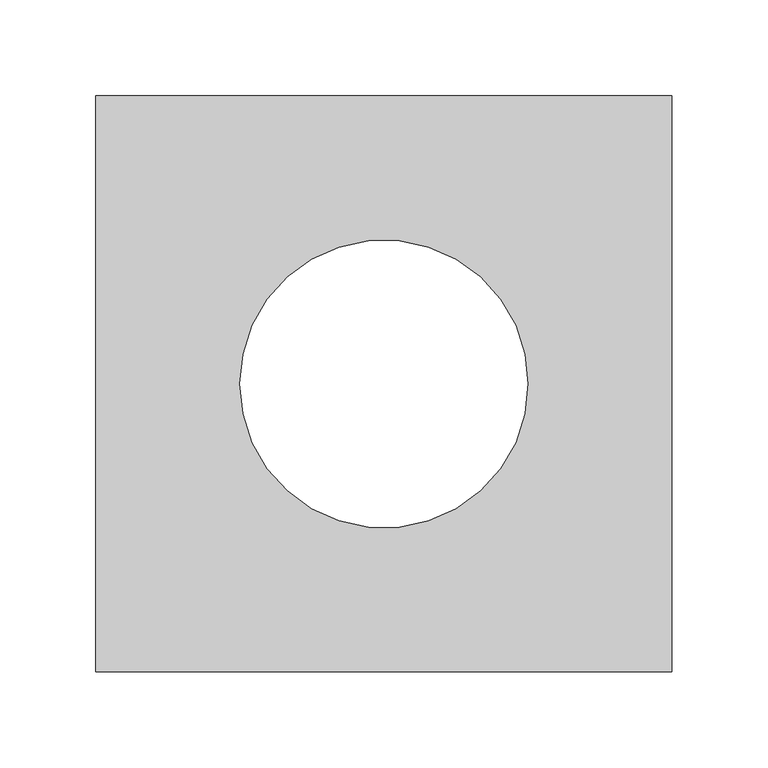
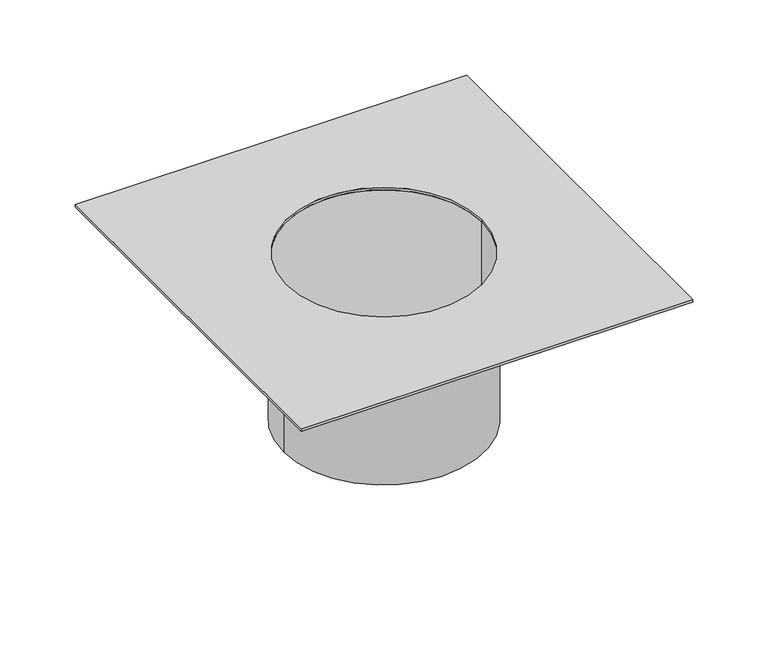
"""IFC4 building model written with IfcOpenShell, lengths in millimetres: proxy geometry, Viaboc Ralo 150mm : Viaboc Ralo 150mm."""

from ifc_helpers import new_model, si_unit, point, frame, origin, origin_with_axes, origin_2d, place, context, project, spatial, polyline, circle_curve, trimmed, segment, composite_curve, outline, extrude, source, transform, mapped, element, save


def entourage_1037a191(model_context):
    return source(origin(), model_context, "Body", "SweptSolid", [
        extrude(outline(composite_curve([segment(trimmed(circle_curve(origin_2d(), 77.0), [point((77.0, 0.0))], [point((-77.0, 0.0))], False, "CARTESIAN"), True, "CONTINUOUS"), segment(trimmed(circle_curve(origin_2d(), 77.0), [point((-77.0, 0.0))], [point((77.0, 0.0))], False, "CARTESIAN"), True, "CONTINUOUS")], self_intersect=False), holes=[composite_curve([segment(trimmed(circle_curve(origin_2d(), 75.0), [point((75.0, 0.0))], [point((-75.0, 0.0))], True, "CARTESIAN"), True, "CONTINUOUS"), segment(trimmed(circle_curve(origin_2d(), 75.0), [point((-75.0, 0.0))], [point((75.0, 0.0))], True, "CARTESIAN"), True, "CONTINUOUS")], self_intersect=False)]), frame((0.0, 0.0, -133.0), z_axis=(0.0, 0.0, 1.0), x_axis=(1.0, 0.0, 0.0)), (0.0, 0.0, 1.0), 133.0),
        extrude(outline(polyline([(150.0, 150.0), (150.0, -150.0), (-150.0, -150.0), (-150.0, 150.0), (150.0, 150.0)]), holes=[composite_curve([segment(trimmed(circle_curve(origin_2d(), 75.0), [point((-75.0, 0.0))], [point((75.0, 0.0))], True, "CARTESIAN"), True, "CONTINUOUS"), segment(trimmed(circle_curve(origin_2d(), 75.0), [point((75.0, 0.0))], [point((-75.0, 0.0))], True, "CARTESIAN"), True, "CONTINUOUS")], self_intersect=False)]), origin_with_axes(), (0.0, 0.0, 1.0), 2.0),
    ])


if __name__ == "__main__":
    model = new_model("IFC4")
    model_context = context("Model", 3, world=origin())
    ifc_project = project(units=[si_unit("LENGTHUNIT", "METRE", prefix="MILLI")], contexts=[model_context])
    site = spatial("IfcSite", under=ifc_project)
    building = spatial("IfcBuilding", under=site)
    placement = place(None, origin())
    entourage_shape = entourage_1037a191(model_context)
    element("IfcBuildingElementProxy", 1, Name="Viaboc Ralo 150mm : Viaboc Ralo 150mm", ObjectType="Viaboc Ralo 150mm : Viaboc Ralo 150mm", at=placement, inside=building, context=model_context, shape_type="MappedRepresentation", body=[
        mapped(entourage_shape, transform((0.0, 0.0, 0.0), x_axis=(1.0, 0.0, 0.0), y_axis=(0.0, 1.0, 0.0), z_axis=(0.0, 0.0, 1.0))),
    ])
    save(model, "model.ifc")
